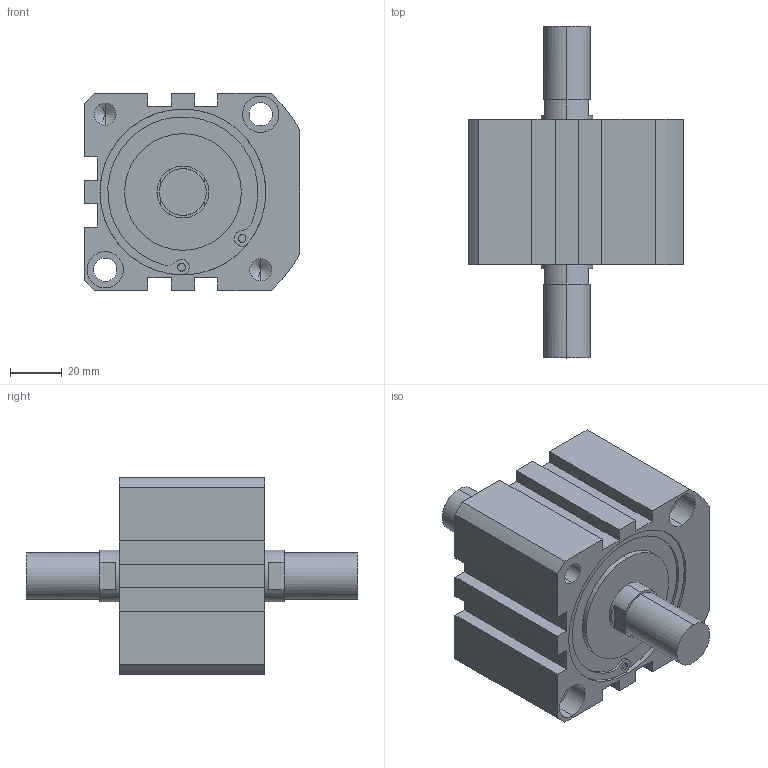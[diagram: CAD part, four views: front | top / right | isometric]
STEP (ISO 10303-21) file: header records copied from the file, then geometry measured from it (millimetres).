
FILE_DESCRIPTION (( 'STEP AP203' ), '1' );
FILE_NAME ('XC#M7-63-10.STEP', '2016-05-23T09:04:28', ( '' ), ( '' ), 'SwSTEP 2.0', 'SolidWorks 2014', '' );
FILE_SCHEMA (( 'CONFIG_CONTROL_DESIGN' ));
Length unit declared in the file: millimetre
Products named in the file (1): XC#M7-63-10
Bounding box: 83 x 128 x 76 mm (x, y, z)
Volume: 323287.6 mm3; surface area: 44727.3 mm2
Topology: 1 solids, 1 shells, 149 faces, 373 edges, 236 vertices
Faces by surface type: cylinder 69, plane 64, cone 16
Entity records: 4494 total; most frequent: DIRECTION 827, CARTESIAN_POINT 747, ORIENTED_EDGE 722, EDGE_CURVE 361, AXIS2_PLACEMENT_3D 316, VERTEX_POINT 236, VECTOR 195, LINE 195
